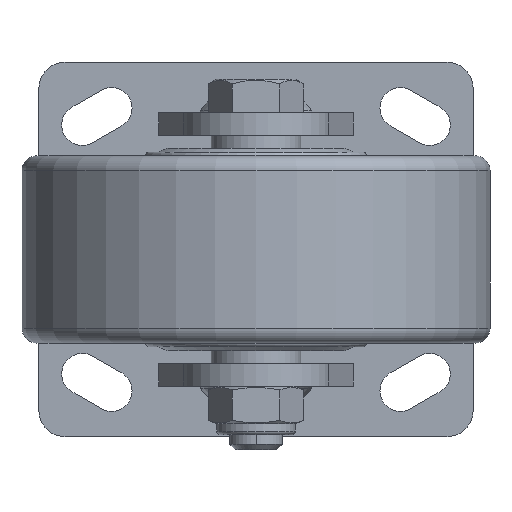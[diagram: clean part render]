
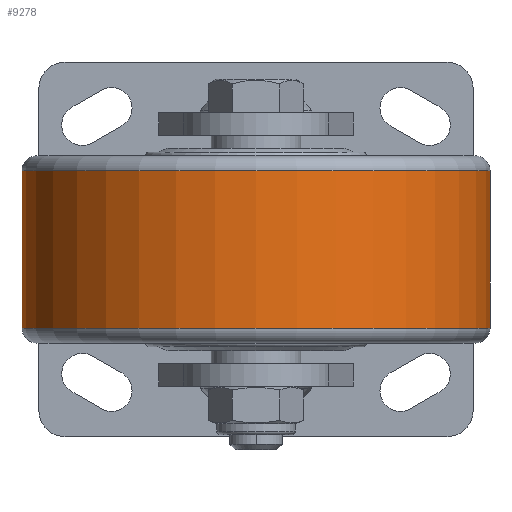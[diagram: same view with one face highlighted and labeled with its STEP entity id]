
A CAD part, front view. The second image highlights one B-rep face of the part: STEP entity #9278.
In plain terms, the highlighted cylindrical face has radius 62.5 mm (diameter 125 mm), a partial arc.
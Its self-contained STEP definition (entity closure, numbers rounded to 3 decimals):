
#6690=CARTESIAN_POINT('',(0.,0.,-21.));
#6691=DIRECTION('',(0.,0.,-1.));
#6692=DIRECTION('',(1.,0.,0.));
#6693=AXIS2_PLACEMENT_3D('',#6690,#6691,#6692);
#6695=DIRECTION('',(0.,0.,-1.));
#6696=VECTOR('',#6695,42.);
#6697=CARTESIAN_POINT('',(-62.5,0.,21.));
#6698=LINE('',#6697,#6696);
#6699=DIRECTION('',(0.,0.,-1.));
#6700=VECTOR('',#6699,42.);
#6701=CARTESIAN_POINT('',(62.5,0.,21.));
#6702=LINE('',#6701,#6700);
#6718=CARTESIAN_POINT('',(0.,0.,21.));
#6719=DIRECTION('',(0.,0.,1.));
#6720=DIRECTION('',(-1.,0.,0.));
#6721=AXIS2_PLACEMENT_3D('',#6718,#6719,#6720);
#9054=CARTESIAN_POINT('',(-62.5,0.,21.));
#9056=VERTEX_POINT('',#9054);
#9071=CARTESIAN_POINT('',(62.5,0.,21.));
#9073=VERTEX_POINT('',#9071);
#9137=CARTESIAN_POINT('',(62.5,0.,-21.));
#9138=VERTEX_POINT('',#9137);
#9170=CARTESIAN_POINT('',(-62.5,0.,-21.));
#9171=VERTEX_POINT('',#9170);
#9264=CARTESIAN_POINT('',(0.,0.,26.));
#9265=DIRECTION('',(0.,0.,1.));
#9266=DIRECTION('',(1.,0.,0.));
#9267=AXIS2_PLACEMENT_3D('',#9264,#9265,#9266);
#9268=CYLINDRICAL_SURFACE('',#9267,62.5);
#9270=ORIENTED_EDGE('',*,*,#9269,.F.);
#9272=ORIENTED_EDGE('',*,*,#9271,.T.);
#9274=ORIENTED_EDGE('',*,*,#9273,.T.);
#9275=ORIENTED_EDGE('',*,*,#9257,.T.);
#9276=EDGE_LOOP('',(#9270,#9272,#9274,#9275));
#9277=FACE_OUTER_BOUND('',#9276,.F.);
#6694=CIRCLE('',#6693,62.5);
#6722=CIRCLE('',#6721,62.5);
#9257=EDGE_CURVE('',#9138,#9171,#6694,.T.);
#9269=EDGE_CURVE('',#9056,#9171,#6698,.T.);
#9271=EDGE_CURVE('',#9056,#9073,#6722,.T.);
#9273=EDGE_CURVE('',#9073,#9138,#6702,.T.);
#9278=ADVANCED_FACE('',(#9277),#9268,.T.);
